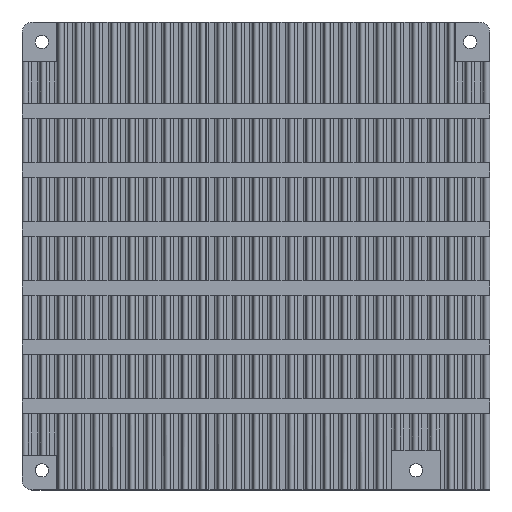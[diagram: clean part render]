
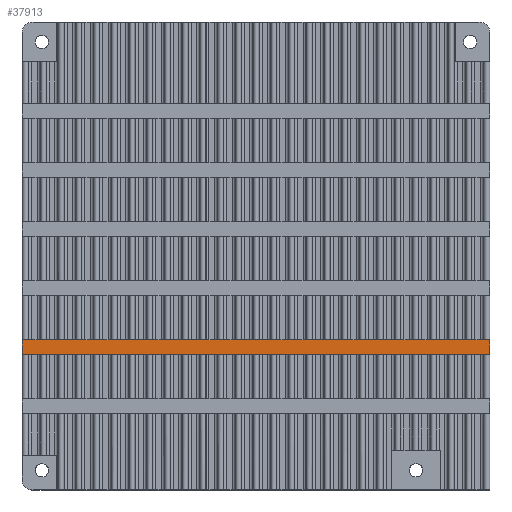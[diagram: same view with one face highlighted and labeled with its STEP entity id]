
A CAD part, top view. The second image highlights one B-rep face of the part: STEP entity #37913.
In plain terms, the highlighted planar face has unit normal (0, 0, 1) as drawn and (0, 1, 0) by its records, which use the part's own axes.
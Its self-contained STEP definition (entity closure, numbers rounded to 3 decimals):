
#47=DIRECTION('',(-1.,0.,0.));
#48=VECTOR('',#47,3.);
#49=CARTESIAN_POINT('',(-73.18,11.8,47.5));
#50=LINE('',#49,#48);
#4120=DIRECTION('',(-1.,0.,0.));
#4121=VECTOR('',#4120,3.);
#4122=CARTESIAN_POINT('',(-73.18,11.8,-47.5));
#4123=LINE('',#4122,#4121);
#14592=DIRECTION('',(0.,0.,1.));
#14593=VECTOR('',#14592,95.);
#14594=CARTESIAN_POINT('',(-76.18,11.8,-47.5));
#14595=LINE('',#14594,#14593);
#14596=DIRECTION('',(0.,0.,1.));
#14597=VECTOR('',#14596,95.);
#14598=CARTESIAN_POINT('',(-73.18,11.8,-47.5));
#14599=LINE('',#14598,#14597);
#17456=CARTESIAN_POINT('',(-73.18,11.8,47.5));
#17457=CARTESIAN_POINT('',(-76.18,11.8,47.5));
#17458=VERTEX_POINT('',#17456);
#17459=VERTEX_POINT('',#17457);
#17472=CARTESIAN_POINT('',(-73.18,11.8,-47.5));
#17473=CARTESIAN_POINT('',(-76.18,11.8,-47.5));
#17474=VERTEX_POINT('',#17472);
#17475=VERTEX_POINT('',#17473);
#37901=CARTESIAN_POINT('',(-73.18,11.8,-47.5));
#37902=DIRECTION('',(0.,-1.,0.));
#37903=DIRECTION('',(-1.,0.,0.));
#37904=AXIS2_PLACEMENT_3D('',#37901,#37902,#37903);
#37905=PLANE('',#37904);
#37906=ORIENTED_EDGE('',*,*,#20153,.T.);
#37907=ORIENTED_EDGE('',*,*,#37896,.F.);
#37908=ORIENTED_EDGE('',*,*,#25164,.F.);
#37910=ORIENTED_EDGE('',*,*,#37909,.T.);
#37911=EDGE_LOOP('',(#37906,#37907,#37908,#37910));
#37912=FACE_OUTER_BOUND('',#37911,.F.);
#37913=ADVANCED_FACE('',(#37912),#37905,.F.);
#20153=EDGE_CURVE('',#17458,#17459,#50,.T.);
#25164=EDGE_CURVE('',#17474,#17475,#4123,.T.);
#37896=EDGE_CURVE('',#17475,#17459,#14595,.T.);
#37909=EDGE_CURVE('',#17474,#17458,#14599,.T.);
